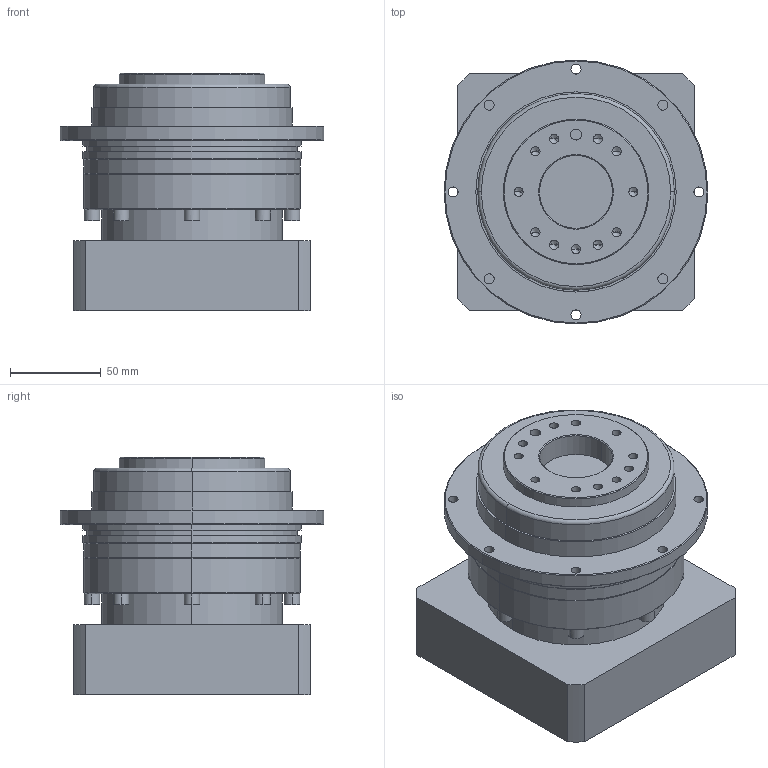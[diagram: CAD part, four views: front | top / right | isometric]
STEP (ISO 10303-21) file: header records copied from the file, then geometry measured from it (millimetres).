
FILE_DESCRIPTION (( 'STEP AP214' ), '1' );
FILE_NAME ('VRT-110-L1-P1 24-110-145-M8.STEP', '2023-05-17T08:29:34', ( '微软用户' ), ( '微软中国' ), 'SwSTEP 2.0', 'SolidWorks 2018', '' );
FILE_SCHEMA (( 'AUTOMOTIVE_DESIGN' ));
Length unit declared in the file: millimetre
Products named in the file (1): VRT-110-L1-P1 24-110-145-M8
Bounding box: 145 x 145 x 130.5 mm (x, y, z)
Volume: 1407039.5 mm3; surface area: 127858.1 mm2
Topology: 1 solids, 1 shells, 237 faces, 571 edges, 351 vertices
Faces by surface type: plane 100, cylinder 99, cone 36, torus 2
Entity records: 7079 total; most frequent: DIRECTION 1273, CARTESIAN_POINT 1138, ORIENTED_EDGE 1098, EDGE_CURVE 549, AXIS2_PLACEMENT_3D 486, VERTEX_POINT 351, LINE 301, VECTOR 301
